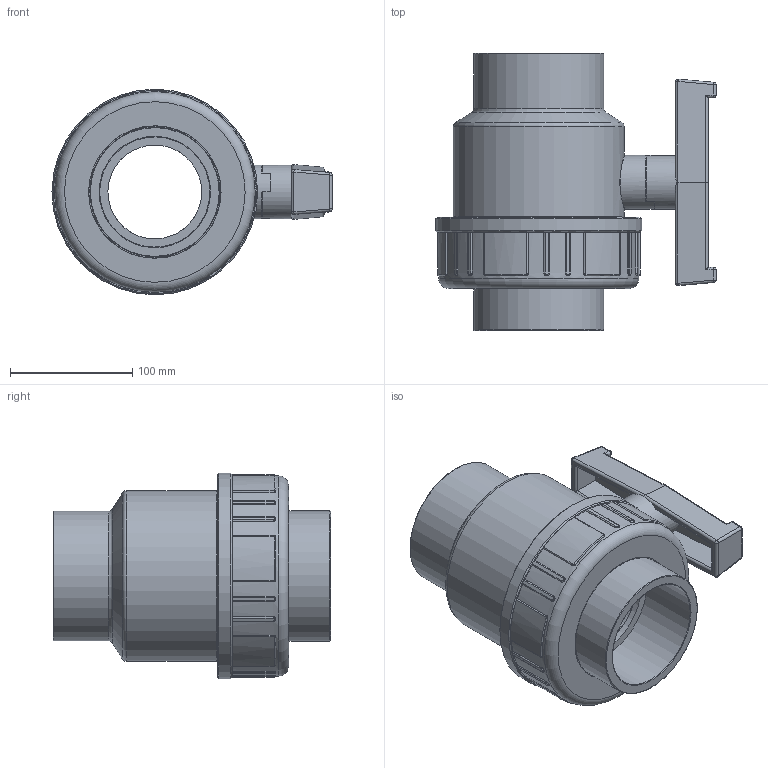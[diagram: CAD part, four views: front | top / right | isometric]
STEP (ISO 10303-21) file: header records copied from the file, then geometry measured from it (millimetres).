
FILE_DESCRIPTION(/* description */ (''),/* implementation_level */ '2;1');
FILE_NAME(/* name */ 'C:\Users\POLYPIPE\Desktop\DATASET INVENTOR\LIBRERIA EFFAST\3D_VALVOLE\3D_VALVOLE A SFERA\3D_SV\3D_BDRSVD\3D_BDRSVD0900.stp',/* time_stamp */ '2018-01-23T16:51:49+01:00',/* author */ ('POLYPIPE'),/* organization */ (''),/* preprocessor_version */ 'ST-DEVELOPER v16.1',/* originating_system */ 'Autodesk Inventor 2016',/* authorisation */ '');
FILE_SCHEMA (('CONFIG_CONTROL_DESIGN'));
Length unit declared in the file: centimetre
Products named in the file (1): 3D_BDRSVD0900
Bounding box: 228.75 x 226.3 x 168 mm (x, y, z)
Volume: 18621.4 mm3; surface area: 285086.3 mm2
Topology: 1 solids, 2 shells, 311 faces, 763 edges, 468 vertices
Faces by surface type: cylinder 112, bspline 83, plane 76, torus 21, sphere 16, cone 3
Full cylindrical faces by diameter (mm): 29.8 x1, 43.5 x1, 44.1 x1, 76.6 x1, 76.8 x1, 90 x2, 106 x1, 106.2 x1, 108 x1, 108.2 x1, 133.1 x1, 137 x1, 139.5 x1, 142.5 x1, 163.5 x1, 168 x1
Entity records: 31517 total; most frequent: CARTESIAN_POINT 24312, ORIENTED_EDGE 1458, DIRECTION 1337, EDGE_CURVE 729, AXIS2_PLACEMENT_3D 530, VERTEX_POINT 462, EDGE_LOOP 353, STYLED_ITEM 312
